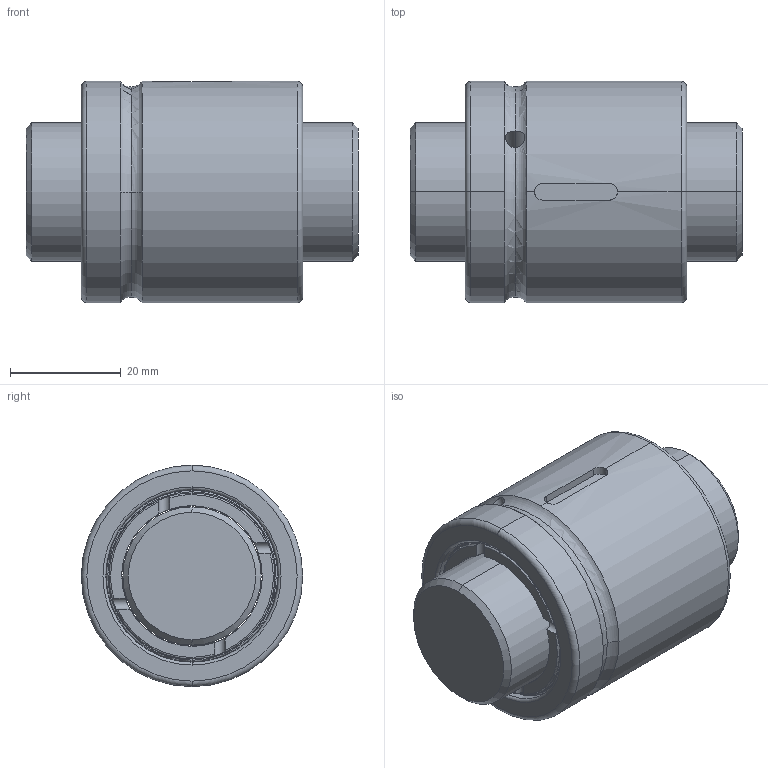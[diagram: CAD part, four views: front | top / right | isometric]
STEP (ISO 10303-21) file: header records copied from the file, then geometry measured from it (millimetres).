
FILE_DESCRIPTION (( 'STEP AP203' ), '1' );
FILE_NAME ('SCIR02504T4-C.STEP', '2020-06-17T07:35:09', ( '' ), ( '' ), 'SwSTEP 2.0', 'SolidWorks 2013', '' );
FILE_SCHEMA (( 'CONFIG_CONTROL_DESIGN' ));
Length unit declared in the file: millimetre
Products named in the file (1): SCIR02504T4-C
Bounding box: 60 x 40 x 40 mm (x, y, z)
Volume: 57231.1 mm3; surface area: 17911.3 mm2
Topology: 2 solids, 2 shells, 100 faces, 244 edges, 153 vertices
Faces by surface type: cylinder 43, torus 32, plane 21, cone 4
Entity records: 4283 total; most frequent: CARTESIAN_POINT 1840, DIRECTION 524, ORIENTED_EDGE 488, EDGE_CURVE 244, AXIS2_PLACEMENT_3D 235, VERTEX_POINT 153, CIRCLE 134, EDGE_LOOP 109
